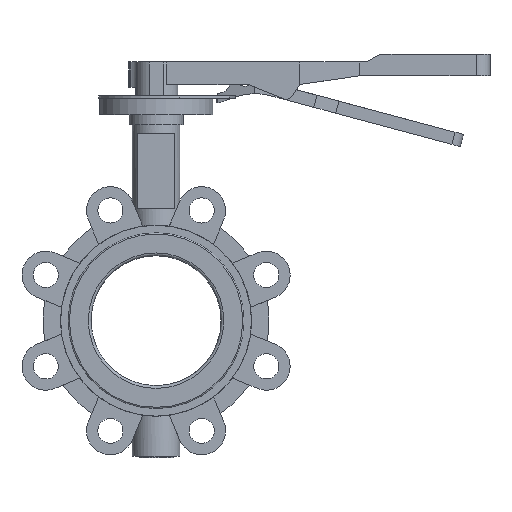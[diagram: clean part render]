
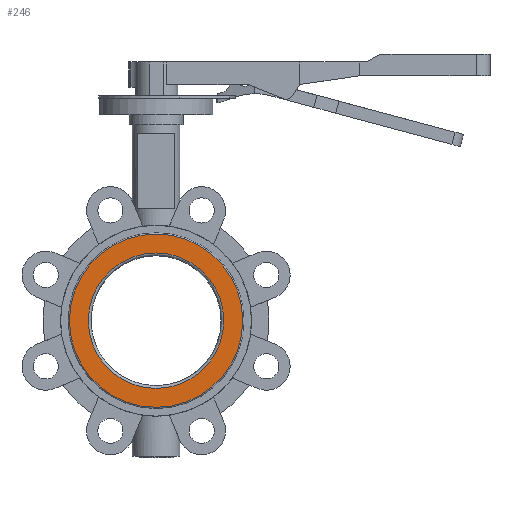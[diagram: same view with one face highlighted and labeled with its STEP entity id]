
A CAD part, front view. The second image highlights one B-rep face of the part: STEP entity #246.
In plain terms, the highlighted planar face has unit normal (0, -1, 0) as drawn and (1, 0, 0) by its records, which use the part's own axes.
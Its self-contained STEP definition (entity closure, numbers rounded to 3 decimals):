
#134 = DIRECTION ( 'NONE',  ( 1., 0., 0. ) ) ;
#183 = CIRCLE ( 'NONE', #5743, 69. ) ;
#246 = ADVANCED_FACE ( 'NONE', ( #7198, #3623 ), #4788, .T. ) ;
#348 = VERTEX_POINT ( 'NONE', #1243 ) ;
#823 = VERTEX_POINT ( 'NONE', #8918 ) ;
#837 = DIRECTION ( 'NONE',  ( 0., 0., -1. ) ) ;
#1164 = CARTESIAN_POINT ( 'NONE',  ( 28., 0., 0. ) ) ;
#1243 = CARTESIAN_POINT ( 'NONE',  ( 28., 0., 69. ) ) ;
#1272 = DIRECTION ( 'NONE',  ( 0., 0., 1. ) ) ;
#1398 = DIRECTION ( 'NONE',  ( -1., 0., 0. ) ) ;
#1406 = EDGE_CURVE ( 'NONE', #823, #823, #8402, .T. ) ;
#2085 = AXIS2_PLACEMENT_3D ( 'NONE', #2224, #1398, #8608 ) ;
#2224 = CARTESIAN_POINT ( 'NONE',  ( 28., 0., 0. ) ) ;
#2850 = DIRECTION ( 'NONE',  ( -1., 0., 0. ) ) ;
#3525 = EDGE_LOOP ( 'NONE', ( #9876 ) ) ;
#3623 = FACE_OUTER_BOUND ( 'NONE', #6367, .T. ) ;
#4506 = AXIS2_PLACEMENT_3D ( 'NONE', #9613, #134, #837 ) ;
#4788 = PLANE ( 'NONE',  #4506 ) ;
#5743 = AXIS2_PLACEMENT_3D ( 'NONE', #1164, #2850, #1272 ) ;
#6165 = ORIENTED_EDGE ( 'NONE', *, *, #9130, .F. ) ;
#6367 = EDGE_LOOP ( 'NONE', ( #6165 ) ) ;
#7198 = FACE_BOUND ( 'NONE', #3525, .T. ) ;
#8402 = CIRCLE ( 'NONE', #2085, 53.945 ) ;
#8608 = DIRECTION ( 'NONE',  ( 0., 0., 1. ) ) ;
#8918 = CARTESIAN_POINT ( 'NONE',  ( 28., 0., 53.945 ) ) ;
#9130 = EDGE_CURVE ( 'NONE', #348, #348, #183, .T. ) ;
#9613 = CARTESIAN_POINT ( 'NONE',  ( 28., 0., 0. ) ) ;
#9876 = ORIENTED_EDGE ( 'NONE', *, *, #1406, .T. ) ;
